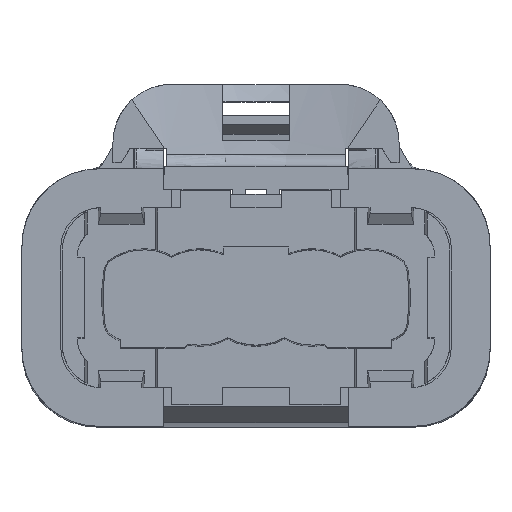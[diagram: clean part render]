
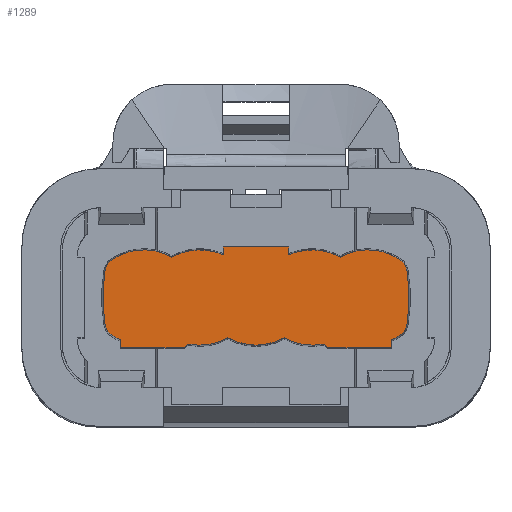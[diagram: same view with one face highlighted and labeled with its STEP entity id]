
A CAD part, top view. The second image highlights one B-rep face of the part: STEP entity #1289.
In plain terms, the highlighted planar face has unit normal (0, 0, 1).
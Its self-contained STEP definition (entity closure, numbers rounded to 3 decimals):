
#597=ELLIPSE('',#17547,0.198,0.198);
#598=ELLIPSE('',#17596,0.196,0.196);
#1289=ADVANCED_FACE('',(#2704),#1920,.T.);
#1920=PLANE('',#17619);
#2704=FACE_OUTER_BOUND('',#3558,.T.);
#3558=EDGE_LOOP('',(#8078,#8079,#8080,#8081,#8082,#8083,#8084,#8085,#8086,
#8087,#8088,#8089,#8090,#8091,#8092,#8093,#8094,#8095,#8096,#8097,#8098,
#8099,#8100,#8101,#8102,#8103));
#4043=CIRCLE('',#17526,0.1);
#4044=CIRCLE('',#17528,3.33);
#4045=CIRCLE('',#17530,0.93);
#4046=CIRCLE('',#17532,9.93);
#4047=CIRCLE('',#17534,0.93);
#4048=CIRCLE('',#17536,3.33);
#4054=CIRCLE('',#17549,3.33);
#4058=CIRCLE('',#17565,3.33);
#4060=CIRCLE('',#17578,3.33);
#4063=CIRCLE('',#17583,0.1);
#4067=CIRCLE('',#17592,3.33);
#4068=CIRCLE('',#17594,3.33);
#4069=CIRCLE('',#17599,3.33);
#4071=CIRCLE('',#17602,0.93);
#4073=CIRCLE('',#17605,9.93);
#4075=CIRCLE('',#17608,0.93);
#4076=CIRCLE('',#17610,3.33);
#8078=ORIENTED_EDGE('',*,*,#12599,.T.);
#8079=ORIENTED_EDGE('',*,*,#12600,.T.);
#8080=ORIENTED_EDGE('',*,*,#12422,.T.);
#8081=ORIENTED_EDGE('',*,*,#12544,.T.);
#8082=ORIENTED_EDGE('',*,*,#12515,.T.);
#8083=ORIENTED_EDGE('',*,*,#12485,.T.);
#8084=ORIENTED_EDGE('',*,*,#12483,.T.);
#8085=ORIENTED_EDGE('',*,*,#12481,.T.);
#8086=ORIENTED_EDGE('',*,*,#12479,.T.);
#8087=ORIENTED_EDGE('',*,*,#12477,.T.);
#8088=ORIENTED_EDGE('',*,*,#12427,.T.);
#8089=ORIENTED_EDGE('',*,*,#12419,.T.);
#8090=ORIENTED_EDGE('',*,*,#12473,.T.);
#8091=ORIENTED_EDGE('',*,*,#12512,.T.);
#8092=ORIENTED_EDGE('',*,*,#12543,.T.);
#8093=ORIENTED_EDGE('',*,*,#12579,.T.);
#8094=ORIENTED_EDGE('',*,*,#12581,.T.);
#8095=ORIENTED_EDGE('',*,*,#12583,.T.);
#8096=ORIENTED_EDGE('',*,*,#12569,.T.);
#8097=ORIENTED_EDGE('',*,*,#12522,.T.);
#8098=ORIENTED_EDGE('',*,*,#12585,.T.);
#8099=ORIENTED_EDGE('',*,*,#12588,.T.);
#8100=ORIENTED_EDGE('',*,*,#12591,.T.);
#8101=ORIENTED_EDGE('',*,*,#12594,.T.);
#8102=ORIENTED_EDGE('',*,*,#12597,.T.);
#8103=ORIENTED_EDGE('',*,*,#12563,.T.);
#10218=VERTEX_POINT('',#27122);
#10219=VERTEX_POINT('',#27124);
#10220=VERTEX_POINT('',#27128);
#10222=VERTEX_POINT('',#27131);
#10225=VERTEX_POINT('',#27141);
#10258=VERTEX_POINT('',#27234);
#10261=VERTEX_POINT('',#27248);
#10262=VERTEX_POINT('',#27252);
#10263=VERTEX_POINT('',#27256);
#10264=VERTEX_POINT('',#27260);
#10265=VERTEX_POINT('',#27264);
#10284=VERTEX_POINT('',#27321);
#10286=VERTEX_POINT('',#27333);
#10289=VERTEX_POINT('',#27346);
#10290=VERTEX_POINT('',#27348);
#10301=VERTEX_POINT('',#27393);
#10311=VERTEX_POINT('',#27435);
#10312=VERTEX_POINT('',#27436);
#10315=VERTEX_POINT('',#27450);
#10321=VERTEX_POINT('',#27479);
#10322=VERTEX_POINT('',#27486);
#10324=VERTEX_POINT('',#27501);
#10326=VERTEX_POINT('',#27510);
#10328=VERTEX_POINT('',#27516);
#10330=VERTEX_POINT('',#27522);
#10331=VERTEX_POINT('',#27532);
#12419=EDGE_CURVE('',#10219,#10218,#14371,.T.);
#12422=EDGE_CURVE('',#10222,#10220,#14374,.T.);
#12427=EDGE_CURVE('',#10225,#10219,#14379,.T.);
#12473=EDGE_CURVE('',#10218,#10258,#4043,.T.);
#12477=EDGE_CURVE('',#10261,#10225,#4044,.T.);
#12479=EDGE_CURVE('',#10262,#10261,#4045,.T.);
#12481=EDGE_CURVE('',#10263,#10262,#4046,.T.);
#12483=EDGE_CURVE('',#10264,#10263,#4047,.T.);
#12485=EDGE_CURVE('',#10265,#10264,#4048,.T.);
#12512=EDGE_CURVE('',#10258,#10284,#597,.T.);
#12515=EDGE_CURVE('',#10286,#10265,#4054,.T.);
#12522=EDGE_CURVE('',#10289,#10290,#14437,.T.);
#12543=EDGE_CURVE('',#10284,#10301,#4058,.T.);
#12544=EDGE_CURVE('',#10220,#10286,#14455,.T.);
#12563=EDGE_CURVE('',#10311,#10312,#4060,.T.);
#12569=EDGE_CURVE('',#10315,#10289,#4063,.T.);
#12579=EDGE_CURVE('',#10301,#10321,#4067,.T.);
#12581=EDGE_CURVE('',#10321,#10322,#4068,.T.);
#12583=EDGE_CURVE('',#10322,#10315,#598,.T.);
#12585=EDGE_CURVE('',#10290,#10324,#14478,.T.);
#12588=EDGE_CURVE('',#10324,#10326,#4069,.T.);
#12591=EDGE_CURVE('',#10326,#10328,#4071,.T.);
#12594=EDGE_CURVE('',#10328,#10330,#4073,.T.);
#12597=EDGE_CURVE('',#10330,#10311,#4075,.T.);
#12599=EDGE_CURVE('',#10312,#10331,#4076,.T.);
#12600=EDGE_CURVE('',#10331,#10222,#14483,.T.);
#14371=LINE('',#27123,#16146);
#14374=LINE('',#27130,#16149);
#14379=LINE('',#27140,#16154);
#14437=LINE('',#27349,#16212);
#14455=LINE('',#27396,#16230);
#14478=LINE('',#27500,#16253);
#14483=LINE('',#27535,#16258);
#16146=VECTOR('',#21172,1.);
#16149=VECTOR('',#21177,1.);
#16154=VECTOR('',#21186,1.);
#16212=VECTOR('',#21350,1.);
#16230=VECTOR('',#21396,1.);
#16253=VECTOR('',#21481,1.);
#16258=VECTOR('',#21514,1.);
#17526=AXIS2_PLACEMENT_3D('',#27233,#21268,#21269);
#17528=AXIS2_PLACEMENT_3D('',#27247,#21273,#21274);
#17530=AXIS2_PLACEMENT_3D('',#27251,#21278,#21279);
#17532=AXIS2_PLACEMENT_3D('',#27255,#21283,#21284);
#17534=AXIS2_PLACEMENT_3D('',#27259,#21288,#21289);
#17536=AXIS2_PLACEMENT_3D('',#27263,#21293,#21294);
#17547=AXIS2_PLACEMENT_3D('',#27320,#21334,#21335);
#17549=AXIS2_PLACEMENT_3D('',#27332,#21338,#21339);
#17565=AXIS2_PLACEMENT_3D('',#27394,#21392,#21393);
#17578=AXIS2_PLACEMENT_3D('',#27434,#21436,#21437);
#17583=AXIS2_PLACEMENT_3D('',#27449,#21448,#21449);
#17592=AXIS2_PLACEMENT_3D('',#27480,#21469,#21470);
#17594=AXIS2_PLACEMENT_3D('',#27488,#21473,#21474);
#17596=AXIS2_PLACEMENT_3D('',#27494,#21477,#21478);
#17599=AXIS2_PLACEMENT_3D('',#27509,#21485,#21486);
#17602=AXIS2_PLACEMENT_3D('',#27515,#21492,#21493);
#17605=AXIS2_PLACEMENT_3D('',#27521,#21499,#21500);
#17608=AXIS2_PLACEMENT_3D('',#27526,#21506,#21507);
#17610=AXIS2_PLACEMENT_3D('',#27533,#21510,#21511);
#17619=AXIS2_PLACEMENT_3D('',#27545,#21531,#21532);
#21172=DIRECTION('',(1.,0.,0.));
#21177=DIRECTION('',(-1.,0.,0.));
#21186=DIRECTION('',(0.,-1.,0.));
#21268=DIRECTION('',(0.,0.,1.));
#21269=DIRECTION('',(1.,0.,0.));
#21273=DIRECTION('',(0.,0.,1.));
#21274=DIRECTION('',(1.,0.,0.));
#21278=DIRECTION('',(0.,0.,1.));
#21279=DIRECTION('',(1.,0.,0.));
#21283=DIRECTION('',(0.,0.,1.));
#21284=DIRECTION('',(1.,0.,0.));
#21288=DIRECTION('',(0.,0.,1.));
#21289=DIRECTION('',(1.,0.,0.));
#21293=DIRECTION('',(0.,0.,1.));
#21294=DIRECTION('',(1.,0.,0.));
#21334=DIRECTION('',(0.,0.,-1.));
#21335=DIRECTION('',(0.349,0.937,0.));
#21338=DIRECTION('',(0.,0.,1.));
#21339=DIRECTION('',(1.,0.,0.));
#21350=DIRECTION('',(1.,0.,0.));
#21392=DIRECTION('',(0.,0.,1.));
#21393=DIRECTION('',(1.,0.,0.));
#21396=DIRECTION('',(0.,-1.,0.));
#21436=DIRECTION('',(0.,0.,1.));
#21437=DIRECTION('',(1.,0.,0.));
#21448=DIRECTION('',(0.,0.,1.));
#21449=DIRECTION('',(1.,0.,0.));
#21469=DIRECTION('',(0.,0.,1.));
#21470=DIRECTION('',(1.,0.,0.));
#21473=DIRECTION('',(0.,0.,1.));
#21474=DIRECTION('',(1.,0.,0.));
#21477=DIRECTION('',(0.,0.,-1.));
#21478=DIRECTION('',(0.372,-0.928,0.));
#21481=DIRECTION('',(0.,1.,0.));
#21485=DIRECTION('',(0.,0.,1.));
#21486=DIRECTION('',(1.,0.,0.));
#21492=DIRECTION('',(0.,0.,1.));
#21493=DIRECTION('',(1.,0.,0.));
#21499=DIRECTION('',(0.,0.,1.));
#21500=DIRECTION('',(1.,0.,0.));
#21506=DIRECTION('',(0.,0.,1.));
#21507=DIRECTION('',(1.,0.,0.));
#21510=DIRECTION('',(0.,0.,1.));
#21511=DIRECTION('',(1.,0.,0.));
#21514=DIRECTION('',(0.,1.,0.));
#21531=DIRECTION('',(0.,0.,1.));
#21532=DIRECTION('',(-1.,0.,0.));
#27122=CARTESIAN_POINT('',(-4.26,-3.,29.35));
#27123=CARTESIAN_POINT('',(10.839,-3.,29.35));
#27124=CARTESIAN_POINT('',(-8.06,-3.,29.35));
#27128=CARTESIAN_POINT('',(-1.95,3.,29.35));
#27130=CARTESIAN_POINT('',(10.839,3.,29.35));
#27131=CARTESIAN_POINT('',(1.95,3.,29.35));
#27140=CARTESIAN_POINT('',(-8.06,3.915,29.35));
#27141=CARTESIAN_POINT('',(-8.06,-2.522,29.35));
#27233=CARTESIAN_POINT('',(-4.26,-2.9,29.35));
#27234=CARTESIAN_POINT('',(-4.162,-2.924,29.35));
#27247=CARTESIAN_POINT('',(-6.66,0.5,29.35));
#27248=CARTESIAN_POINT('',(-8.583,-2.219,29.35));
#27251=CARTESIAN_POINT('',(-8.046,-1.459,29.35));
#27252=CARTESIAN_POINT('',(-8.964,-1.61,29.35));
#27255=CARTESIAN_POINT('',(0.835,0.,29.35));
#27256=CARTESIAN_POINT('',(-8.964,1.61,29.35));
#27259=CARTESIAN_POINT('',(-8.046,1.459,29.35));
#27260=CARTESIAN_POINT('',(-8.583,2.219,29.35));
#27263=CARTESIAN_POINT('',(-6.66,-0.5,29.35));
#27264=CARTESIAN_POINT('',(-4.995,2.384,29.35));
#27320=CARTESIAN_POINT('',(-3.968,-2.971,29.35));
#27321=CARTESIAN_POINT('',(-3.933,-2.775,29.35));
#27332=CARTESIAN_POINT('',(-3.33,-0.5,29.35));
#27333=CARTESIAN_POINT('',(-1.95,2.531,29.35));
#27346=CARTESIAN_POINT('',(4.26,-3.,29.35));
#27348=CARTESIAN_POINT('',(8.06,-3.,29.35));
#27349=CARTESIAN_POINT('',(10.839,-3.,29.35));
#27393=CARTESIAN_POINT('',(-1.665,-2.384,29.35));
#27394=CARTESIAN_POINT('',(-3.33,0.5,29.35));
#27396=CARTESIAN_POINT('',(-1.95,3.915,29.35));
#27434=CARTESIAN_POINT('',(6.66,-0.5,29.35));
#27435=CARTESIAN_POINT('',(8.583,2.219,29.35));
#27436=CARTESIAN_POINT('',(4.995,2.384,29.35));
#27449=CARTESIAN_POINT('',(4.26,-2.9,29.35));
#27450=CARTESIAN_POINT('',(4.161,-2.924,29.35));
#27479=CARTESIAN_POINT('',(1.665,-2.384,29.35));
#27480=CARTESIAN_POINT('',(0.,0.5,29.35));
#27486=CARTESIAN_POINT('',(3.933,-2.775,29.35));
#27488=CARTESIAN_POINT('',(3.33,0.5,29.35));
#27494=CARTESIAN_POINT('',(3.967,-2.968,29.35));
#27500=CARTESIAN_POINT('',(8.06,3.915,29.35));
#27501=CARTESIAN_POINT('',(8.06,-2.522,29.35));
#27509=CARTESIAN_POINT('',(6.66,0.5,29.35));
#27510=CARTESIAN_POINT('',(8.583,-2.219,29.35));
#27515=CARTESIAN_POINT('',(8.046,-1.459,29.35));
#27516=CARTESIAN_POINT('',(8.964,-1.61,29.35));
#27521=CARTESIAN_POINT('',(-0.835,0.,29.35));
#27522=CARTESIAN_POINT('',(8.964,1.61,29.35));
#27526=CARTESIAN_POINT('',(8.046,1.459,29.35));
#27532=CARTESIAN_POINT('',(1.95,2.531,29.35));
#27533=CARTESIAN_POINT('',(3.33,-0.5,29.35));
#27535=CARTESIAN_POINT('',(1.95,3.915,29.35));
#27545=CARTESIAN_POINT('',(10.839,3.915,29.35));
